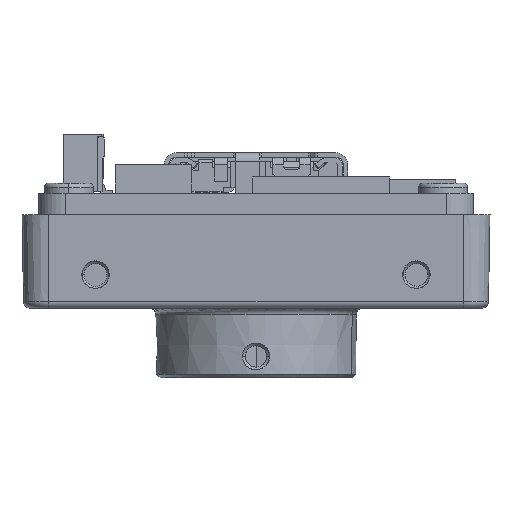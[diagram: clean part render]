
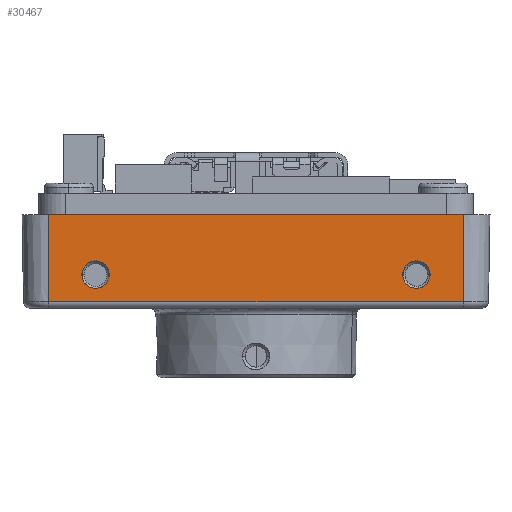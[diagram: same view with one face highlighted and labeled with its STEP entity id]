
A CAD part, left-side view. The second image highlights one B-rep face of the part: STEP entity #30467.
In plain terms, the highlighted planar face has unit normal (-1, 0, -0.018).
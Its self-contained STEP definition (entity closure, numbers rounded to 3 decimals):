
#4580=DIRECTION('',(0.,1.,0.));
#4581=VECTOR('',#4580,31.);
#4582=CARTESIAN_POINT('',(-17.386,-15.5,
0.491));
#4583=LINE('',#4582,#4581);
#4584=DIRECTION('',(-0.017,0.,1.));
#4585=VECTOR('',#4584,6.51);
#4586=CARTESIAN_POINT('',(-17.386,15.5,
0.491));
#4587=LINE('',#4586,#4585);
#4588=DIRECTION('',(0.,-1.,0.));
#4589=VECTOR('',#4588,31.);
#4590=CARTESIAN_POINT('',(-17.5,15.5,7.));
#4591=LINE('',#4590,#4589);
#4597=DIRECTION('',(-0.017,0.,1.));
#4598=VECTOR('',#4597,6.51);
#4599=CARTESIAN_POINT('',(-17.386,-15.5,
0.491));
#4600=LINE('',#4599,#4598);
#5141=CARTESIAN_POINT('',(-17.421,-13.021,
2.5));
#5142=CARTESIAN_POINT('',(-17.419,-13.019,
2.333));
#5143=CARTESIAN_POINT('',(-17.414,-12.942,
2.07));
#5144=CARTESIAN_POINT('',(-17.409,-12.731,
1.774));
#5145=CARTESIAN_POINT('',(-17.405,-12.431,
1.568));
#5146=CARTESIAN_POINT('',(-17.404,-12.167,
1.496));
#5147=CARTESIAN_POINT('',(-17.404,-12.,1.496));
#5149=CARTESIAN_POINT('',(-17.404,-12.,1.496));
#5150=CARTESIAN_POINT('',(-17.404,-11.833,
1.496));
#5151=CARTESIAN_POINT('',(-17.405,-11.569,
1.568));
#5152=CARTESIAN_POINT('',(-17.409,-11.269,
1.774));
#5153=CARTESIAN_POINT('',(-17.414,-11.058,
2.07));
#5154=CARTESIAN_POINT('',(-17.419,-10.981,
2.333));
#5155=CARTESIAN_POINT('',(-17.421,-10.979,
2.5));
#5165=CARTESIAN_POINT('',(-17.421,-10.979,
2.5));
#5166=CARTESIAN_POINT('',(-17.424,-10.976,
2.621));
#5167=CARTESIAN_POINT('',(-17.428,-11.016,
2.885));
#5168=CARTESIAN_POINT('',(-17.435,-11.249,
3.256));
#5169=CARTESIAN_POINT('',(-17.438,-11.554,
3.455));
#5170=CARTESIAN_POINT('',(-17.439,-11.814,
3.529));
#5171=CARTESIAN_POINT('',(-17.44,-12.,
3.545));
#5172=CARTESIAN_POINT('',(-17.439,-12.186,
3.529));
#5173=CARTESIAN_POINT('',(-17.438,-12.446,
3.455));
#5174=CARTESIAN_POINT('',(-17.435,-12.751,
3.256));
#5175=CARTESIAN_POINT('',(-17.428,-12.984,
2.885));
#5176=CARTESIAN_POINT('',(-17.424,-13.024,
2.621));
#5177=CARTESIAN_POINT('',(-17.421,-13.021,
2.5));
#5212=CARTESIAN_POINT('',(-17.421,10.979,2.5));
#5213=CARTESIAN_POINT('',(-17.419,10.981,2.333));
#5214=CARTESIAN_POINT('',(-17.414,11.058,2.07));
#5215=CARTESIAN_POINT('',(-17.409,11.269,1.774));
#5216=CARTESIAN_POINT('',(-17.405,11.569,1.568));
#5217=CARTESIAN_POINT('',(-17.404,11.833,1.496));
#5218=CARTESIAN_POINT('',(-17.404,12.,1.496));
#5220=CARTESIAN_POINT('',(-17.404,12.,1.496));
#5221=CARTESIAN_POINT('',(-17.404,12.167,1.496));
#5222=CARTESIAN_POINT('',(-17.405,12.431,1.568));
#5223=CARTESIAN_POINT('',(-17.409,12.731,1.774));
#5224=CARTESIAN_POINT('',(-17.414,12.942,2.07));
#5225=CARTESIAN_POINT('',(-17.419,13.019,2.333));
#5226=CARTESIAN_POINT('',(-17.421,13.021,2.5));
#5228=CARTESIAN_POINT('',(-17.421,13.021,2.5));
#5229=CARTESIAN_POINT('',(-17.424,13.024,2.621));
#5230=CARTESIAN_POINT('',(-17.428,12.984,2.885));
#5231=CARTESIAN_POINT('',(-17.435,12.751,3.256));
#5232=CARTESIAN_POINT('',(-17.438,12.446,3.455));
#5233=CARTESIAN_POINT('',(-17.439,12.186,3.529));
#5234=CARTESIAN_POINT('',(-17.44,12.,3.545));
#5235=CARTESIAN_POINT('',(-17.439,11.814,3.529));
#5236=CARTESIAN_POINT('',(-17.438,11.554,3.455));
#5237=CARTESIAN_POINT('',(-17.435,11.249,3.256));
#5238=CARTESIAN_POINT('',(-17.428,11.016,2.885));
#5239=CARTESIAN_POINT('',(-17.424,10.976,2.621));
#5240=CARTESIAN_POINT('',(-17.421,10.979,2.5));
#19286=CARTESIAN_POINT('',(-17.5,15.5,7.));
#19288=VERTEX_POINT('',#19286);
#19300=CARTESIAN_POINT('',(-17.5,-15.5,7.));
#19301=VERTEX_POINT('',#19300);
#19307=CARTESIAN_POINT('',(-17.386,15.5,0.491));
#19309=VERTEX_POINT('',#19307);
#19596=CARTESIAN_POINT('',(-17.386,-15.5,0.491));
#19597=VERTEX_POINT('',#19596);
#19598=VERTEX_POINT('',#5220);
#19599=VERTEX_POINT('',#5226);
#19600=VERTEX_POINT('',#5212);
#19601=VERTEX_POINT('',#5149);
#19602=VERTEX_POINT('',#5155);
#19603=VERTEX_POINT('',#5141);
#30439=CARTESIAN_POINT('',(-17.443,0.,3.746));
#30440=DIRECTION('',(1.,0.,0.017));
#30441=DIRECTION('',(0.,-1.,0.));
#30442=AXIS2_PLACEMENT_3D('',#30439,#30440,#30441);
#30443=PLANE('',#30442);
#30444=ORIENTED_EDGE('',*,*,#30433,.T.);
#30445=ORIENTED_EDGE('',*,*,#30282,.T.);
#30446=ORIENTED_EDGE('',*,*,#30206,.T.);
#30448=ORIENTED_EDGE('',*,*,#30447,.F.);
#30449=EDGE_LOOP('',(#30444,#30445,#30446,#30448));
#30450=FACE_OUTER_BOUND('',#30449,.F.);
#30452=ORIENTED_EDGE('',*,*,#30451,.F.);
#30454=ORIENTED_EDGE('',*,*,#30453,.F.);
#30456=ORIENTED_EDGE('',*,*,#30455,.F.);
#30457=EDGE_LOOP('',(#30452,#30454,#30456));
#30458=FACE_BOUND('',#30457,.F.);
#30460=ORIENTED_EDGE('',*,*,#30459,.F.);
#30462=ORIENTED_EDGE('',*,*,#30461,.F.);
#30464=ORIENTED_EDGE('',*,*,#30463,.F.);
#30465=EDGE_LOOP('',(#30460,#30462,#30464));
#30466=FACE_BOUND('',#30465,.F.);
#30467=ADVANCED_FACE('',(#30450,#30458,#30466),#30443,.F.);
#5148=B_SPLINE_CURVE_WITH_KNOTS('',3,(#5141,#5142,#5143,#5144,#5145,#5146,
#5147),.UNSPECIFIED.,.F.,.F.,(4,1,1,1,4),(0.,0.25,0.5,0.75,1.),
.UNSPECIFIED.);
#5156=B_SPLINE_CURVE_WITH_KNOTS('',3,(#5149,#5150,#5151,#5152,#5153,#5154,
#5155),.UNSPECIFIED.,.F.,.F.,(4,1,1,1,4),(0.,0.25,0.5,0.75,1.),
.UNSPECIFIED.);
#5178=B_SPLINE_CURVE_WITH_KNOTS('',3,(#5165,#5166,#5167,#5168,#5169,#5170,#5171,
#5172,#5173,#5174,#5175,#5176,#5177),.UNSPECIFIED.,.F.,.F.,(4,1,1,1,1,1,1,1,1,1,
4),(0.,0.125,0.25,0.375,0.438,0.5,0.563,0.625,0.75,0.875,
1.),.UNSPECIFIED.);
#5219=B_SPLINE_CURVE_WITH_KNOTS('',3,(#5212,#5213,#5214,#5215,#5216,#5217,
#5218),.UNSPECIFIED.,.F.,.F.,(4,1,1,1,4),(0.,0.25,0.5,0.75,1.),
.UNSPECIFIED.);
#5227=B_SPLINE_CURVE_WITH_KNOTS('',3,(#5220,#5221,#5222,#5223,#5224,#5225,
#5226),.UNSPECIFIED.,.F.,.F.,(4,1,1,1,4),(0.,0.25,0.5,0.75,1.),
.UNSPECIFIED.);
#5241=B_SPLINE_CURVE_WITH_KNOTS('',3,(#5228,#5229,#5230,#5231,#5232,#5233,#5234,
#5235,#5236,#5237,#5238,#5239,#5240),.UNSPECIFIED.,.F.,.F.,(4,1,1,1,1,1,1,1,1,1,
4),(0.,0.125,0.25,0.375,0.438,0.5,0.563,0.625,0.75,0.875,
1.),.UNSPECIFIED.);
#30206=EDGE_CURVE('',#19288,#19301,#4591,.T.);
#30282=EDGE_CURVE('',#19309,#19288,#4587,.T.);
#30433=EDGE_CURVE('',#19597,#19309,#4583,.T.);
#30447=EDGE_CURVE('',#19597,#19301,#4600,.T.);
#30451=EDGE_CURVE('',#19601,#19602,#5156,.T.);
#30453=EDGE_CURVE('',#19603,#19601,#5148,.T.);
#30455=EDGE_CURVE('',#19602,#19603,#5178,.T.);
#30459=EDGE_CURVE('',#19598,#19599,#5227,.T.);
#30461=EDGE_CURVE('',#19600,#19598,#5219,.T.);
#30463=EDGE_CURVE('',#19599,#19600,#5241,.T.);
